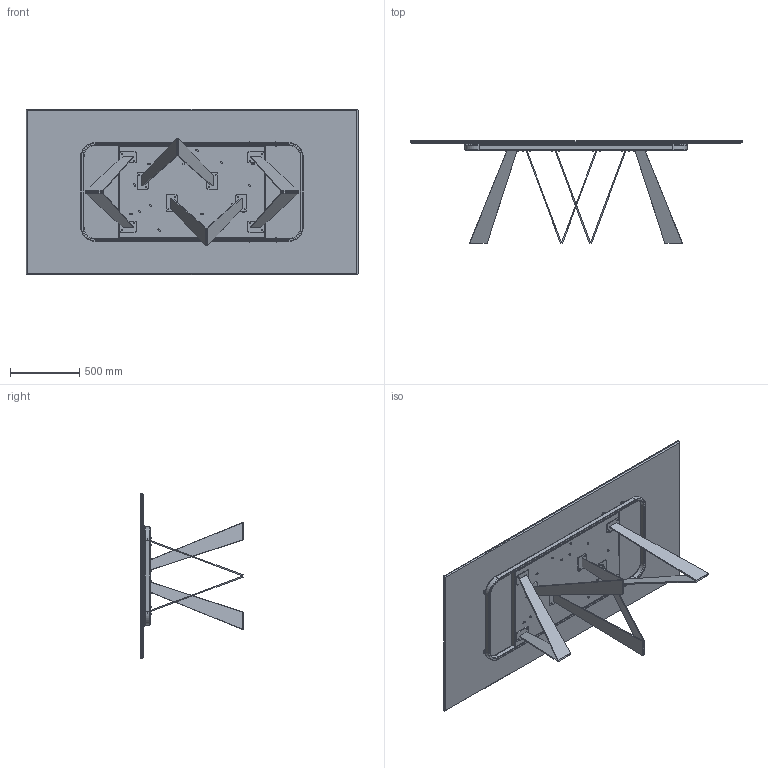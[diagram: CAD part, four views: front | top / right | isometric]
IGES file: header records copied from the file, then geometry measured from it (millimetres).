
Start section: SolidWorks IGES file using analytic representation for surfaces
Global section: file name: Y:\eforma\TECNICO\SOLIDWORKS\E-FORMA\1-TAVOLI\NOA TAVOLO\02 parts\NO22C_Noa_239x119x75h_Ceramic Rectangular.IGS; native system: SolidWorks 2022; preprocessor: SolidWorks 2022; author: eforma.tech; date: 240807.163119; units: millimetre
Bounding box: 2390 x 735.8 x 1190 mm (x, y, z)
Volume: 54444748.9 mm3; surface area: 15500508.3 mm2
Topology: 71 solids, 71 shells, 1490 faces, 3408 edges, 2044 vertices
Faces by surface type: revolution 892, plane 598
